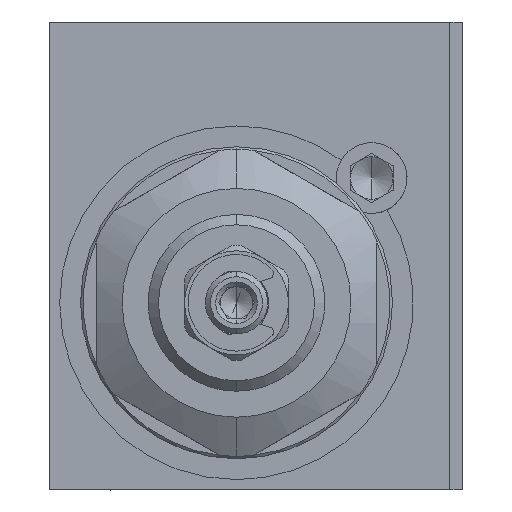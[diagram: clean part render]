
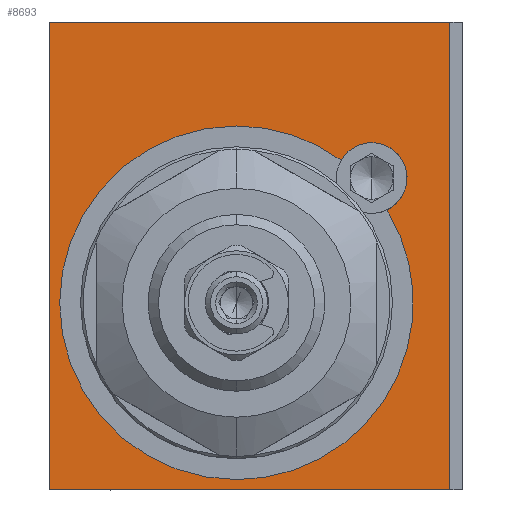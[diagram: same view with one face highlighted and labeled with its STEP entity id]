
A CAD part, left-side view. The second image highlights one B-rep face of the part: STEP entity #8693.
In plain terms, the highlighted planar face has unit normal (-1, 0, 0).
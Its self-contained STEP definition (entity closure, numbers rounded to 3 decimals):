
#672 = CARTESIAN_POINT ( 'NONE',  ( 0., 1.25, -4.5 ) ) ;
#700 = CIRCLE ( 'NONE', #11531, 17. ) ;
#1242 = EDGE_CURVE ( 'NONE', #11394, #7225, #6113, .T. ) ;
#1608 = CARTESIAN_POINT ( 'NONE',  ( 0., 19.25, 22.5 ) ) ;
#1831 = DIRECTION ( 'NONE',  ( -1., 0., 0. ) ) ;
#1970 = DIRECTION ( 'NONE',  ( 0., 0., -1. ) ) ;
#2376 = LINE ( 'NONE', #6307, #11840 ) ;
#2694 = CARTESIAN_POINT ( 'NONE',  ( 0., 19.25, 22.5 ) ) ;
#2775 = CARTESIAN_POINT ( 'NONE',  ( 0., -19.25, -22.5 ) ) ;
#2971 = DIRECTION ( 'NONE',  ( 0., 0., -1. ) ) ;
#3029 = CARTESIAN_POINT ( 'NONE',  ( 0., -19.25, -22.5 ) ) ;
#3045 = DIRECTION ( 'NONE',  ( -1., 0., 0. ) ) ;
#3090 = DIRECTION ( 'NONE',  ( 0., 0., -1. ) ) ;
#3181 = CARTESIAN_POINT ( 'NONE',  ( 0., 1.25, -4.5 ) ) ;
#3503 = ORIENTED_EDGE ( 'NONE', *, *, #10616, .F. ) ;
#3732 = VERTEX_POINT ( 'NONE', #11975 ) ;
#4273 = FACE_BOUND ( 'NONE', #11488, .T. ) ;
#4529 = CARTESIAN_POINT ( 'NONE',  ( 0., 19.25, -22.5 ) ) ;
#4987 = DIRECTION ( 'NONE',  ( 0., 0., -1. ) ) ;
#5015 = CARTESIAN_POINT ( 'NONE',  ( 0., -11.75, 7.5 ) ) ;
#5093 = DIRECTION ( 'NONE',  ( 0., 0., -1. ) ) ;
#5107 = DIRECTION ( 'NONE',  ( -1., 0., 0. ) ) ;
#5109 = CARTESIAN_POINT ( 'NONE',  ( 0., -19.25, 22.5 ) ) ;
#5110 = DIRECTION ( 'NONE',  ( -1., 0., 0. ) ) ;
#5113 = CARTESIAN_POINT ( 'NONE',  ( 0., -11.75, 7.5 ) ) ;
#5189 = EDGE_CURVE ( 'NONE', #12123, #5849, #6894, .T. ) ;
#5849 = VERTEX_POINT ( 'NONE', #1608 ) ;
#6054 = DIRECTION ( 'NONE',  ( 0., 1., 0. ) ) ;
#6057 = CARTESIAN_POINT ( 'NONE',  ( 0., -19.25, 22.5 ) ) ;
#6089 = DIRECTION ( 'NONE',  ( -1., 0., 0. ) ) ;
#6113 = CIRCLE ( 'NONE', #13436, 17. ) ;
#6193 = EDGE_CURVE ( 'NONE', #7225, #11349, #700, .T. ) ;
#6307 = CARTESIAN_POINT ( 'NONE',  ( 0., 19.25, -22.5 ) ) ;
#6554 = EDGE_CURVE ( 'NONE', #3732, #7243, #13227, .T. ) ;
#6894 = LINE ( 'NONE', #8770, #8510 ) ;
#7131 = VERTEX_POINT ( 'NONE', #6057 ) ;
#7225 = VERTEX_POINT ( 'NONE', #13528 ) ;
#7243 = VERTEX_POINT ( 'NONE', #12880 ) ;
#7945 = DIRECTION ( 'NONE',  ( 0., 0., -1. ) ) ;
#8310 = DIRECTION ( 'NONE',  ( 0., -1., 0. ) ) ;
#8510 = VECTOR ( 'NONE', #9281, 1000. ) ;
#8693 = ADVANCED_FACE ( 'NONE', ( #4273, #9020 ), #12976, .T. ) ;
#8770 = CARTESIAN_POINT ( 'NONE',  ( 0., 19.25, -22.5 ) ) ;
#9020 = FACE_OUTER_BOUND ( 'NONE', #11478, .T. ) ;
#9281 = DIRECTION ( 'NONE',  ( 0., 0., 1. ) ) ;
#9533 = DIRECTION ( 'NONE',  ( 0., 0., -1. ) ) ;
#9560 = DIRECTION ( 'NONE',  ( -1., 0., 0. ) ) ;
#9567 = EDGE_CURVE ( 'NONE', #10852, #12123, #2376, .T. ) ;
#9576 = CARTESIAN_POINT ( 'NONE',  ( 0., 1.25, -4.5 ) ) ;
#9614 = AXIS2_PLACEMENT_3D ( 'NONE', #3181, #3045, #3090 ) ;
#9653 = AXIS2_PLACEMENT_3D ( 'NONE', #5015, #6089, #4987 ) ;
#10616 = EDGE_CURVE ( 'NONE', #11349, #3732, #13417, .T. ) ;
#10787 = EDGE_CURVE ( 'NONE', #7243, #11394, #13312, .T. ) ;
#10794 = ORIENTED_EDGE ( 'NONE', *, *, #10925, .F. ) ;
#10852 = VERTEX_POINT ( 'NONE', #3029 ) ;
#10925 = EDGE_CURVE ( 'NONE', #5849, #7131, #13259, .T. ) ;
#10949 = EDGE_CURVE ( 'NONE', #7131, #10852, #13208, .T. ) ;
#11018 = CARTESIAN_POINT ( 'NONE',  ( 0., 1.25, 12.5 ) ) ;
#11293 = CARTESIAN_POINT ( 'NONE',  ( 0., -13.215, 4.432 ) ) ;
#11349 = VERTEX_POINT ( 'NONE', #11293 ) ;
#11394 = VERTEX_POINT ( 'NONE', #11018 ) ;
#11431 = ORIENTED_EDGE ( 'NONE', *, *, #5189, .F. ) ;
#11478 = EDGE_LOOP ( 'NONE', ( #10794, #11431, #13613, #12621 ) ) ;
#11488 = EDGE_LOOP ( 'NONE', ( #3503, #13324, #13338, #12118, #11547 ) ) ;
#11531 = AXIS2_PLACEMENT_3D ( 'NONE', #9576, #9560, #9533 ) ;
#11547 = ORIENTED_EDGE ( 'NONE', *, *, #6554, .F. ) ;
#11840 = VECTOR ( 'NONE', #6054, 1000. ) ;
#11975 = CARTESIAN_POINT ( 'NONE',  ( 0., -11.75, 10.9 ) ) ;
#12118 = ORIENTED_EDGE ( 'NONE', *, *, #10787, .F. ) ;
#12123 = VERTEX_POINT ( 'NONE', #4529 ) ;
#12188 = AXIS2_PLACEMENT_3D ( 'NONE', #5109, #5107, #5093 ) ;
#12621 = ORIENTED_EDGE ( 'NONE', *, *, #10949, .F. ) ;
#12880 = CARTESIAN_POINT ( 'NONE',  ( 0., -8.808, 9.205 ) ) ;
#12976 = PLANE ( 'NONE',  #12188 ) ;
#13122 = AXIS2_PLACEMENT_3D ( 'NONE', #5113, #5110, #7945 ) ;
#13208 = LINE ( 'NONE', #2775, #13296 ) ;
#13227 = CIRCLE ( 'NONE', #13122, 3.4 ) ;
#13239 = VECTOR ( 'NONE', #8310, 1000. ) ;
#13259 = LINE ( 'NONE', #2694, #13239 ) ;
#13296 = VECTOR ( 'NONE', #1970, 1000. ) ;
#13312 = CIRCLE ( 'NONE', #9614, 17. ) ;
#13324 = ORIENTED_EDGE ( 'NONE', *, *, #6193, .F. ) ;
#13338 = ORIENTED_EDGE ( 'NONE', *, *, #1242, .F. ) ;
#13417 = CIRCLE ( 'NONE', #9653, 3.4 ) ;
#13436 = AXIS2_PLACEMENT_3D ( 'NONE', #672, #1831, #2971 ) ;
#13528 = CARTESIAN_POINT ( 'NONE',  ( 0., 1.25, -21.5 ) ) ;
#13613 = ORIENTED_EDGE ( 'NONE', *, *, #9567, .F. ) ;
